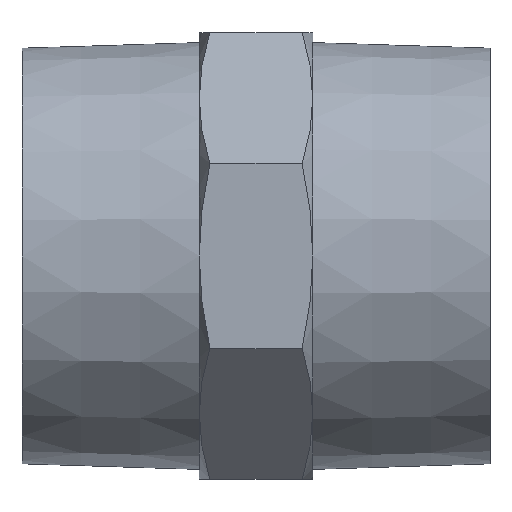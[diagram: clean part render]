
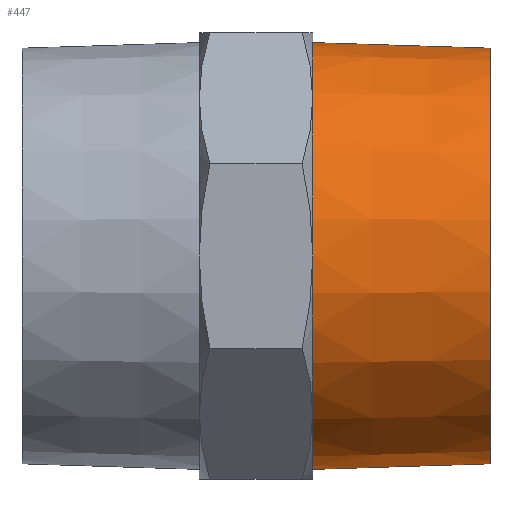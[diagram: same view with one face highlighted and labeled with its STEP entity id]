
A CAD part, front view. The second image highlights one B-rep face of the part: STEP entity #447.
In plain terms, the highlighted conical face has half-angle 1.79 degrees and reference radius 30.092 mm.
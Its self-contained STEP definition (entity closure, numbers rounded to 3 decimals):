
#47=CONICAL_SURFACE('',#502,30.092,0.031);
#83=FACE_OUTER_BOUND('',#115,.T.);
#115=EDGE_LOOP('',(#313,#314,#315,#316,#317,#318));
#148=LINE('',#694,#159);
#159=VECTOR('',#570,30.092);
#171=CIRCLE('',#500,29.311);
#172=CIRCLE('',#501,29.311);
#173=CIRCLE('',#503,30.092);
#174=CIRCLE('',#504,30.092);
#197=VERTEX_POINT('',#688);
#198=VERTEX_POINT('',#689);
#199=VERTEX_POINT('',#693);
#200=VERTEX_POINT('',#695);
#240=EDGE_CURVE('',#197,#198,#171,.T.);
#241=EDGE_CURVE('',#198,#197,#172,.T.);
#242=EDGE_CURVE('',#198,#199,#148,.T.);
#243=EDGE_CURVE('',#200,#199,#173,.T.);
#244=EDGE_CURVE('',#199,#200,#174,.T.);
#313=ORIENTED_EDGE('',*,*,#240,.F.);
#314=ORIENTED_EDGE('',*,*,#241,.F.);
#315=ORIENTED_EDGE('',*,*,#242,.T.);
#316=ORIENTED_EDGE('',*,*,#243,.F.);
#317=ORIENTED_EDGE('',*,*,#244,.F.);
#318=ORIENTED_EDGE('',*,*,#242,.F.);
#447=ADVANCED_FACE('',(#83),#47,.T.);
#500=AXIS2_PLACEMENT_3D('',#690,#564,#565);
#501=AXIS2_PLACEMENT_3D('',#691,#566,#567);
#502=AXIS2_PLACEMENT_3D('',#692,#568,#569);
#503=AXIS2_PLACEMENT_3D('',#696,#571,#572);
#504=AXIS2_PLACEMENT_3D('',#697,#573,#574);
#564=DIRECTION('center_axis',(1.,0.,0.));
#565=DIRECTION('ref_axis',(0.,0.,-1.));
#566=DIRECTION('center_axis',(1.,0.,0.));
#567=DIRECTION('ref_axis',(0.,0.,-1.));
#568=DIRECTION('center_axis',(-1.,0.,0.));
#569=DIRECTION('ref_axis',(0.,0.,-1.));
#570=DIRECTION('',(-1.,0.,0.031));
#571=DIRECTION('center_axis',(-1.,0.,0.));
#572=DIRECTION('ref_axis',(0.,0.,-1.));
#573=DIRECTION('center_axis',(-1.,0.,0.));
#574=DIRECTION('ref_axis',(0.,0.,-1.));
#688=CARTESIAN_POINT('',(33.,0.,-29.311));
#689=CARTESIAN_POINT('',(33.,0.,29.311));
#690=CARTESIAN_POINT('Origin',(33.,0.,0.));
#691=CARTESIAN_POINT('Origin',(33.,0.,0.));
#692=CARTESIAN_POINT('Origin',(8.,0.,0.));
#693=CARTESIAN_POINT('',(8.,0.,30.092));
#694=CARTESIAN_POINT('',(8.,0.,30.092));
#695=CARTESIAN_POINT('',(8.,0.,-30.092));
#696=CARTESIAN_POINT('Origin',(8.,0.,0.));
#697=CARTESIAN_POINT('Origin',(8.,0.,0.));
